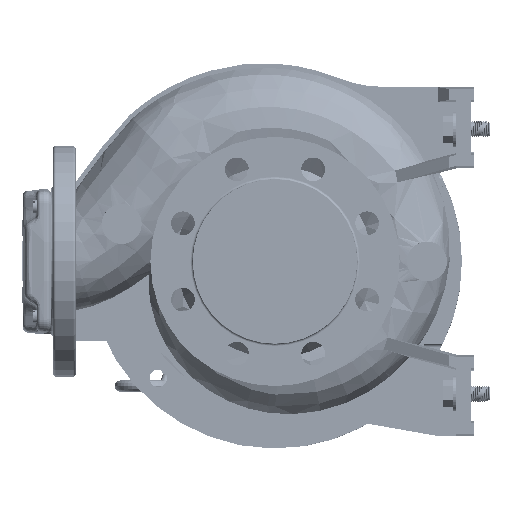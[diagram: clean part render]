
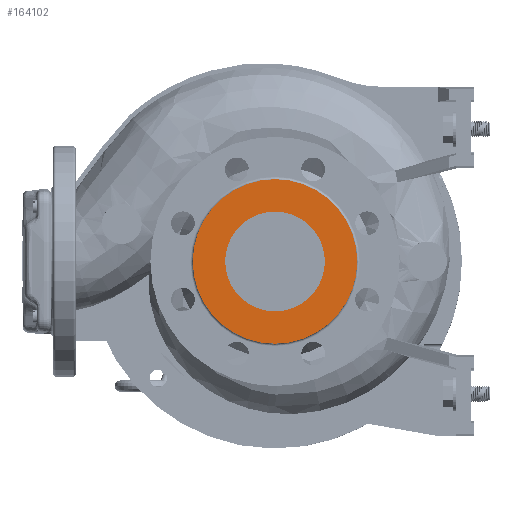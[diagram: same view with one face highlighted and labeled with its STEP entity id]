
A CAD part, left-side view. The second image highlights one B-rep face of the part: STEP entity #164102.
In plain terms, the highlighted planar face has unit normal (-1, 0, 0).
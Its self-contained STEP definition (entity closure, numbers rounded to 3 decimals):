
#2445 = AXIS2_PLACEMENT_3D ( 'NONE', #4257, #70268, #123990 ) ;
#4257 = CARTESIAN_POINT ( 'NONE',  ( -100., 0., 0. ) ) ;
#5230 = DIRECTION ( 'NONE',  ( 0., -1., 0. ) ) ;
#15226 = DIRECTION ( 'NONE',  ( 1., 0., 0. ) ) ;
#16092 = CARTESIAN_POINT ( 'NONE',  ( -100., 0., 0. ) ) ;
#20631 = CIRCLE ( 'NONE', #62856, 40. ) ;
#22141 = EDGE_CURVE ( 'NONE', #140435, #51312, #80737, .T. ) ;
#36510 = DIRECTION ( 'NONE',  ( 0., -1., 0. ) ) ;
#40560 = CARTESIAN_POINT ( 'NONE',  ( -100., -66., 0. ) ) ;
#42304 = CIRCLE ( 'NONE', #78836, 66. ) ;
#49728 = CARTESIAN_POINT ( 'NONE',  ( -100., -40., 0. ) ) ;
#51312 = VERTEX_POINT ( 'NONE', #91307 ) ;
#58059 = DIRECTION ( 'NONE',  ( -1., 0., 0. ) ) ;
#62856 = AXIS2_PLACEMENT_3D ( 'NONE', #138201, #58059, #5230 ) ;
#65230 = AXIS2_PLACEMENT_3D ( 'NONE', #16092, #15226, #68895 ) ;
#68895 = DIRECTION ( 'NONE',  ( 0., 1., 0. ) ) ;
#70268 = DIRECTION ( 'NONE',  ( -1., 0., 0. ) ) ;
#70626 = FACE_BOUND ( 'NONE', #111760, .T. ) ;
#73749 = VERTEX_POINT ( 'NONE', #49728 ) ;
#78836 = AXIS2_PLACEMENT_3D ( 'NONE', #128972, #169521, #36510 ) ;
#80127 = CARTESIAN_POINT ( 'NONE',  ( -100., 0., 0. ) ) ;
#80631 = EDGE_LOOP ( 'NONE', ( #101491, #117744 ) ) ;
#80737 = CIRCLE ( 'NONE', #162264, 66. ) ;
#91307 = CARTESIAN_POINT ( 'NONE',  ( -100., 66., 0. ) ) ;
#92454 = DIRECTION ( 'NONE',  ( 0., -1., 0. ) ) ;
#101491 = ORIENTED_EDGE ( 'NONE', *, *, #22141, .T. ) ;
#107770 = EDGE_CURVE ( 'NONE', #132794, #73749, #20631, .T. ) ;
#108648 = CARTESIAN_POINT ( 'NONE',  ( -100., 40., 0. ) ) ;
#111760 = EDGE_LOOP ( 'NONE', ( #148164, #132145 ) ) ;
#117744 = ORIENTED_EDGE ( 'NONE', *, *, #152808, .T. ) ;
#123990 = DIRECTION ( 'NONE',  ( 0., -1., 0. ) ) ;
#128972 = CARTESIAN_POINT ( 'NONE',  ( -100., 0., 0. ) ) ;
#132145 = ORIENTED_EDGE ( 'NONE', *, *, #107770, .F. ) ;
#132794 = VERTEX_POINT ( 'NONE', #108648 ) ;
#135838 = PLANE ( 'NONE',  #65230 ) ;
#138201 = CARTESIAN_POINT ( 'NONE',  ( -100., 0., 0. ) ) ;
#140435 = VERTEX_POINT ( 'NONE', #40560 ) ;
#148164 = ORIENTED_EDGE ( 'NONE', *, *, #157028, .F. ) ;
#152808 = EDGE_CURVE ( 'NONE', #51312, #140435, #42304, .T. ) ;
#157028 = EDGE_CURVE ( 'NONE', #73749, #132794, #168367, .T. ) ;
#159443 = DIRECTION ( 'NONE',  ( -1., 0., 0. ) ) ;
#162264 = AXIS2_PLACEMENT_3D ( 'NONE', #80127, #159443, #92454 ) ;
#162308 = FACE_OUTER_BOUND ( 'NONE', #80631, .T. ) ;
#164102 = ADVANCED_FACE ( 'NONE', ( #70626, #162308 ), #135838, .F. ) ;
#168367 = CIRCLE ( 'NONE', #2445, 40. ) ;
#169521 = DIRECTION ( 'NONE',  ( -1., 0., 0. ) ) ;
